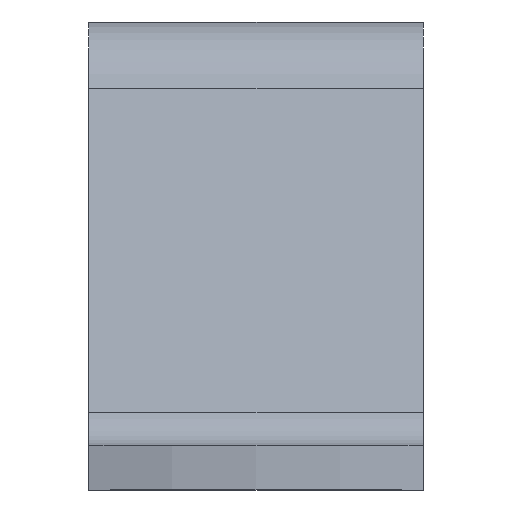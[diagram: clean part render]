
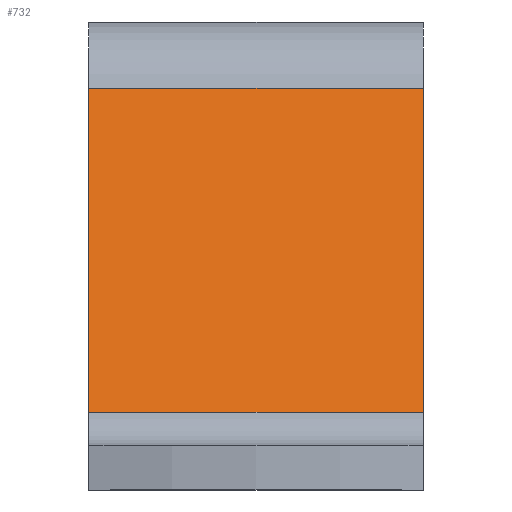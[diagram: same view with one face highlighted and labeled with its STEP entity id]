
A CAD part, left-side view. The second image highlights one B-rep face of the part: STEP entity #732.
In plain terms, the highlighted planar face has unit normal (-0.966, 0, 0.259).
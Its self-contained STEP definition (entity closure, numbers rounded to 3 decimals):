
#347=CARTESIAN_POINT('',(10.797,-7.5,18.035));
#348=VERTEX_POINT('',#347);
#356=CARTESIAN_POINT('',(6.897,-7.5,3.482));
#357=VERTEX_POINT('',#356);
#358=CARTESIAN_POINT('',(6.897,-7.5,3.482));
#359=DIRECTION('',(0.259,0.0,0.966));
#360=VECTOR('',#359,15.066);
#361=LINE('',#358,#360);
#362=EDGE_CURVE('',#357,#348,#361,.T.);
#616=CARTESIAN_POINT('',(6.897,7.5,3.482));
#617=VERTEX_POINT('',#616);
#625=CARTESIAN_POINT('',(10.797,7.5,18.035));
#626=VERTEX_POINT('',#625);
#627=CARTESIAN_POINT('',(10.797,7.5,18.035));
#628=DIRECTION('',(-0.259,0.0,-0.966));
#629=VECTOR('',#628,15.066);
#630=LINE('',#627,#629);
#631=EDGE_CURVE('',#626,#617,#630,.T.);
#705=CARTESIAN_POINT('',(6.897,7.5,3.482));
#706=DIRECTION('',(0.0,-1.0,0.0));
#707=VECTOR('',#706,15.0);
#708=LINE('',#705,#707);
#709=EDGE_CURVE('',#617,#357,#708,.T.);
#716=CARTESIAN_POINT('',(6.897,7.5,3.482));
#717=DIRECTION('',(-0.966,0.,0.259));
#718=DIRECTION('',(-0.259,0.,-0.966));
#719=AXIS2_PLACEMENT_3D('',#716,#717,#718);
#720=PLANE('',#719);
#721=ORIENTED_EDGE('',*,*,#362,.T.);
#722=CARTESIAN_POINT('',(10.797,7.5,18.035));
#723=DIRECTION('',(0.0,-1.0,0.0));
#724=VECTOR('',#723,15.0);
#725=LINE('',#722,#724);
#726=EDGE_CURVE('',#626,#348,#725,.T.);
#727=ORIENTED_EDGE('',*,*,#726,.F.);
#728=ORIENTED_EDGE('',*,*,#631,.T.);
#729=ORIENTED_EDGE('',*,*,#709,.T.);
#730=EDGE_LOOP('',(#721,#727,#728,#729));
#731=FACE_OUTER_BOUND('',#730,.T.);
#732=ADVANCED_FACE('',(#731),#720,.T.);
